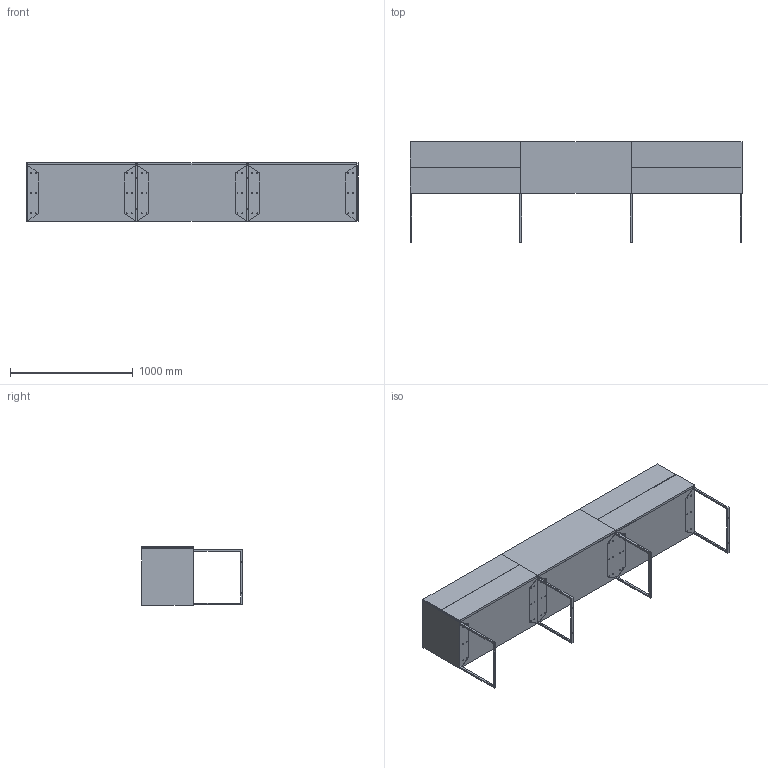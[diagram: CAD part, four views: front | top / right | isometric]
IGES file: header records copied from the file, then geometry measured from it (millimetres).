
Start section: SolidWorks IGES file using NURBS representation for surfaces
Global section: file name: G:\VICCARBE\PRODUCTOS\20-DO IT\04-MODELADOS (PLANOS)\SOLIDWORKS\Composiciones\IGES\VICCARBE_Do_It_Comp04.IGS; native system: SolidWorks 2009; preprocessor: SolidWorks 2009; author: RUBEN; date: 111102.121704; units: millimetre
Bounding box: 2700 x 820 x 479 mm (x, y, z)
Surface area: 12425614 mm2 (no closed solid volume)
Topology: 0 solids, 0 shells, 237 faces, 3864 edges, 3864 vertices
Faces by surface type: bspline 237
